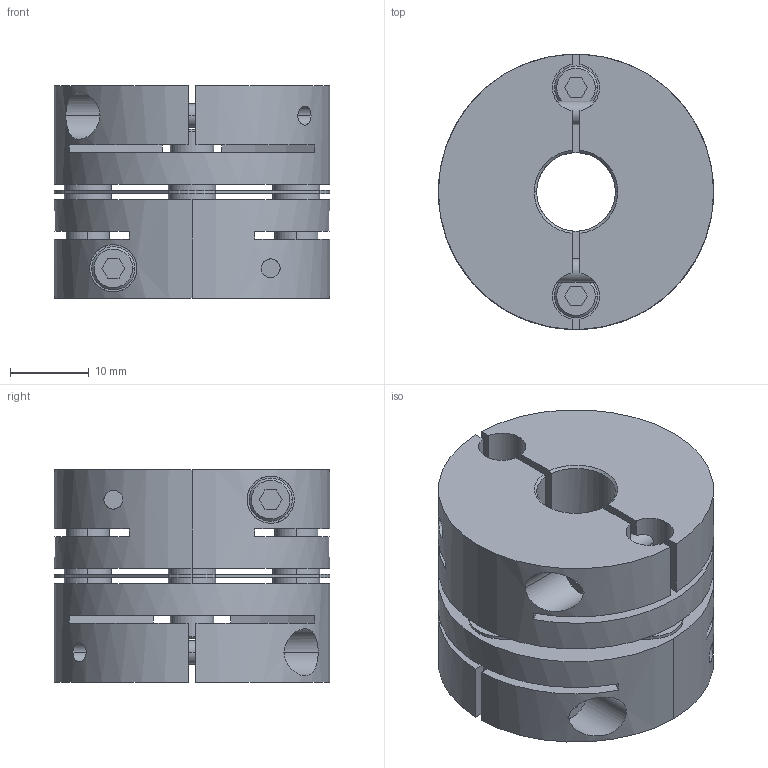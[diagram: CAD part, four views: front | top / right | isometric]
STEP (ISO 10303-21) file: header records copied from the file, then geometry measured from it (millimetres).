
FILE_DESCRIPTION((''),'2;1');
FILE_NAME('LAS-35C-10×12.stp','2011-08-10T16:37:57',(''),(''),'AutoCAD STEP 2000i','AutoCAD 2000i',', , ');
FILE_SCHEMA(('CONFIG_CONTROL_DESIGN'));
Length unit declared in the file: millimetre
Products named in the file (5): LAS-35C-8×8; 忣兜1; LA-3502-D08-1; LA-3502-D08; LAS35-ITA
Assembly tree (4 placements, depth 2):
  LAS-35C-8×8
    忣兜1
    LA-3502-D08-1
    LA-3502-D08
    LAS35-ITA
Bounding box: 35 x 35 x 27 mm (x, y, z)
Volume: 19410.7 mm3; surface area: 12029.8 mm2
Topology: 1 solids, 1 shells, 236 faces, 624 edges, 408 vertices
Faces by surface type: plane 112, cylinder 96, cone 28
Entity records: 8143 total; most frequent: CARTESIAN_POINT 1949, DIRECTION 1302, ORIENTED_EDGE 1248, EDGE_CURVE 624, AXIS2_PLACEMENT_3D 477, VERTEX_POINT 408, VECTOR 348, LINE 348
